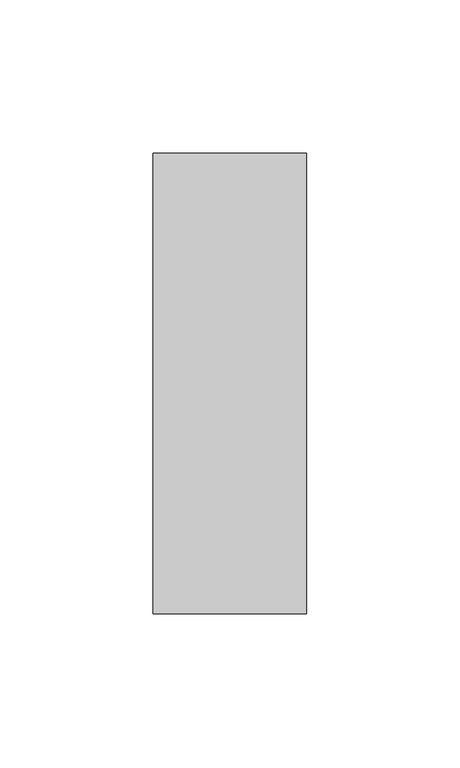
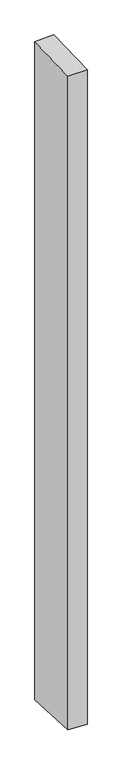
"""IFC4 building model written with IfcOpenShell, lengths in millimetres: member geometry, Прямоугольный импост : 50 x 150 мм."""

from ifc_helpers import new_model, si_unit, origin, place, context, project, spatial, faceted_brep, source, transform, mapped, element, save


def member_f4fb0137(model_context):
    return source(origin(), model_context, "Body", "Brep", [
        faceted_brep([(-25.0, 75.0, 1.7839812), (25.0, 75.0, 3.1639551), (25.0, 75.0, -1823.8167771), (-25.0, 75.0, -1822.1119779), (-25.0, -75.0, -3.1639551), (-25.0, -75.0, -1814.5371263), (25.0, -75.0, -1.7839812), (25.0, -75.0, -1816.2419254)], [[[0, 1, 2, 3]], [[4, 0, 3, 5]], [[6, 4, 5, 7]], [[1, 6, 7, 2]], [[1, 0, 4, 6]], [[2, 7, 5, 3]]]),
    ])


if __name__ == "__main__":
    model = new_model("IFC4")
    model_context = context("Model", 3, world=origin())
    ifc_project = project(units=[si_unit("LENGTHUNIT", "METRE", prefix="MILLI")], contexts=[model_context])
    site = spatial("IfcSite", under=ifc_project)
    building = spatial("IfcBuilding", under=site)
    placement = place(None, origin())
    member_shape = member_f4fb0137(model_context)
    element("IfcMember", 1, ObjectType="Прямоугольный импост : 50 x 150 мм", at=placement, inside=building, context=model_context, shape_type="MappedRepresentation", body=[
        mapped(member_shape, transform((0.0, 0.0, 0.0), x_axis=(1.0, 0.0, 0.0), y_axis=(0.0, 1.0, 0.0), z_axis=(0.0, 0.0, 1.0))),
    ])
    save(model, "model.ifc")
